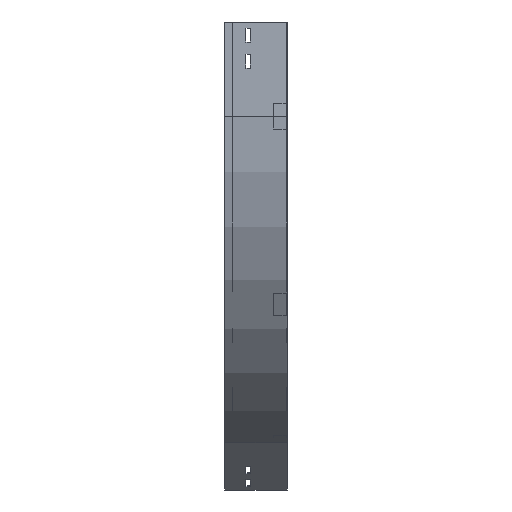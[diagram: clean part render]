
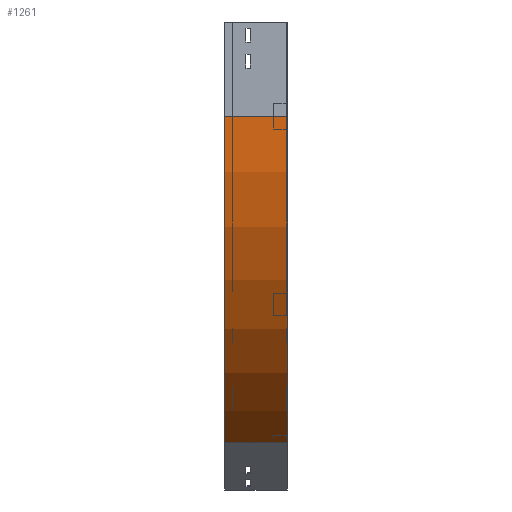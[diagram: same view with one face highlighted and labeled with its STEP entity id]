
A CAD part, left-side view. The second image highlights one B-rep face of the part: STEP entity #1261.
In plain terms, the highlighted cylindrical face has radius 600 mm (diameter 1200 mm), a partial arc.
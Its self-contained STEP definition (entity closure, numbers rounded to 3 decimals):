
#7 = EDGE_CURVE ( 'NONE', #3416, #1238, #1368, .T. ) ;
#37 = DIRECTION ( 'NONE',  ( 0., -1., 0. ) ) ;
#166 = CARTESIAN_POINT ( 'NONE',  ( 300., 100., -669.615 ) ) ;
#256 = EDGE_CURVE ( 'NONE', #2961, #1501, #2368, .T. ) ;
#326 = CARTESIAN_POINT ( 'NONE',  ( 600., 0., -150. ) ) ;
#783 = CARTESIAN_POINT ( 'NONE',  ( 300., 0., -669.615 ) ) ;
#864 = CIRCLE ( 'NONE', #1593, 600. ) ;
#889 = FACE_OUTER_BOUND ( 'NONE', #1772, .T. ) ;
#911 = DIRECTION ( 'NONE',  ( 0., -1., 0. ) ) ;
#951 = CARTESIAN_POINT ( 'NONE',  ( 600., 0., -150. ) ) ;
#1217 = DIRECTION ( 'NONE',  ( -1., 0., 0. ) ) ;
#1227 = CIRCLE ( 'NONE', #1969, 600. ) ;
#1238 = VERTEX_POINT ( 'NONE', #2703 ) ;
#1260 = CARTESIAN_POINT ( 'NONE',  ( 0., 0., -150. ) ) ;
#1261 = ADVANCED_FACE ( 'NONE', ( #889 ), #3290, .T. ) ;
#1303 = VECTOR ( 'NONE', #2861, 1000. ) ;
#1368 = LINE ( 'NONE', #783, #1303 ) ;
#1376 = ORIENTED_EDGE ( 'NONE', *, *, #256, .F. ) ;
#1468 = DIRECTION ( 'NONE',  ( 0., 0., -1. ) ) ;
#1501 = VERTEX_POINT ( 'NONE', #2643 ) ;
#1537 = AXIS2_PLACEMENT_3D ( 'NONE', #326, #37, #1468 ) ;
#1588 = VECTOR ( 'NONE', #911, 1000. ) ;
#1593 = AXIS2_PLACEMENT_3D ( 'NONE', #3510, #3549, #1995 ) ;
#1772 = EDGE_LOOP ( 'NONE', ( #2176, #1376, #2557, #3716 ) ) ;
#1925 = EDGE_CURVE ( 'NONE', #2961, #3416, #864, .T. ) ;
#1969 = AXIS2_PLACEMENT_3D ( 'NONE', #951, #3256, #1217 ) ;
#1995 = DIRECTION ( 'NONE',  ( -1., 0., 0. ) ) ;
#2176 = ORIENTED_EDGE ( 'NONE', *, *, #3705, .F. ) ;
#2368 = LINE ( 'NONE', #1260, #1588 ) ;
#2450 = CARTESIAN_POINT ( 'NONE',  ( 0., 100., -150. ) ) ;
#2557 = ORIENTED_EDGE ( 'NONE', *, *, #1925, .T. ) ;
#2643 = CARTESIAN_POINT ( 'NONE',  ( 0., 0., -150. ) ) ;
#2703 = CARTESIAN_POINT ( 'NONE',  ( 300., 0., -669.615 ) ) ;
#2861 = DIRECTION ( 'NONE',  ( 0., -1., 0. ) ) ;
#2961 = VERTEX_POINT ( 'NONE', #2450 ) ;
#3256 = DIRECTION ( 'NONE',  ( 0., -1., 0. ) ) ;
#3290 = CYLINDRICAL_SURFACE ( 'NONE', #1537, 600. ) ;
#3416 = VERTEX_POINT ( 'NONE', #166 ) ;
#3510 = CARTESIAN_POINT ( 'NONE',  ( 600., 100., -150. ) ) ;
#3549 = DIRECTION ( 'NONE',  ( 0., -1., 0. ) ) ;
#3705 = EDGE_CURVE ( 'NONE', #1501, #1238, #1227, .T. ) ;
#3716 = ORIENTED_EDGE ( 'NONE', *, *, #7, .T. ) ;
